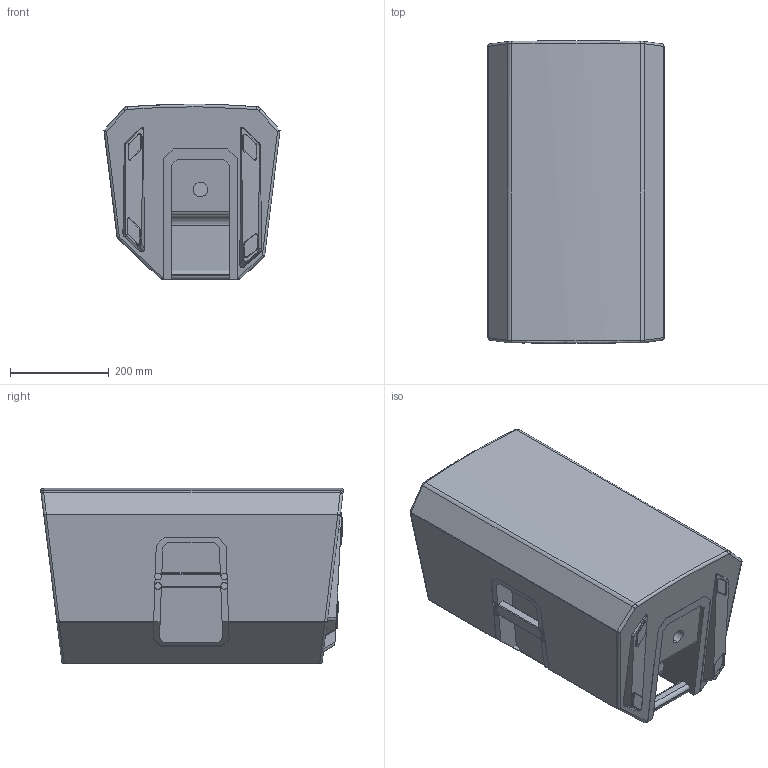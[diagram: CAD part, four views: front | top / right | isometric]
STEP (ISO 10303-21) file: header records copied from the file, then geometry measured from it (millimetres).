
FILE_DESCRIPTION (( 'STEP AP203' ), '1' );
FILE_NAME ('ZLX-12 3D CAD.STEP', '2022-04-24T03:07:17', ( '' ), ( '' ), 'SwSTEP 2.0', 'SolidWorks 2021', '' );
FILE_SCHEMA (( 'CONFIG_CONTROL_DESIGN' ));
Length unit declared in the file: millimetre
Products named in the file (1): ZLX-12 3D CAD
Bounding box: 356.16 x 611.61 x 355.76 mm (x, y, z)
Volume: 58523767.3 mm3; surface area: 1022320.6 mm2
Topology: 1 solids, 2 shells, 286 faces, 754 edges, 469 vertices
Faces by surface type: cylinder 117, plane 116, bspline 31, torus 20, sphere 2
Entity records: 9234 total; most frequent: CARTESIAN_POINT 2496, ORIENTED_EDGE 1474, DIRECTION 1340, EDGE_CURVE 737, AXIS2_PLACEMENT_3D 470, VERTEX_POINT 466, VECTOR 400, LINE 400
